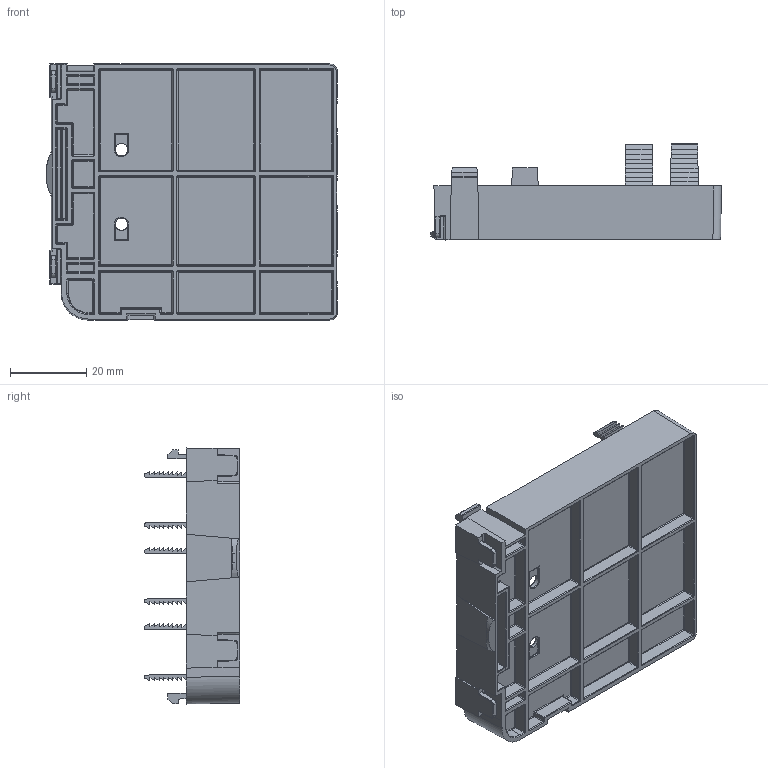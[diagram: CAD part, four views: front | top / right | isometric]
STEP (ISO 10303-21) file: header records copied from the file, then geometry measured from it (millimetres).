
FILE_DESCRIPTION (( 'STEP AP203' ), '1' );
FILE_NAME ('D007806.STEP', '2018-04-04T10:22:06', ( '' ), ( '' ), 'SwSTEP 2.0', 'SolidWorks 2014', '' );
FILE_SCHEMA (( 'CONFIG_CONTROL_DESIGN' ));
Length unit declared in the file: millimetre
Products named in the file (1): D007806
Bounding box: 76.14 x 25.04 x 67 mm (x, y, z)
Volume: 15104.3 mm3; surface area: 22288.8 mm2
Topology: 1 solids, 2 shells, 991 faces, 2421 edges, 1444 vertices
Faces by surface type: plane 417, cylinder 342, bspline 184, sphere 29, torus 13, cone 6
Entity records: 37056 total; most frequent: CARTESIAN_POINT 15983, ORIENTED_EDGE 4828, DIRECTION 3644, EDGE_CURVE 2414, VERTEX_POINT 1444, VECTOR 1412, LINE 1412, AXIS2_PLACEMENT_3D 1116
